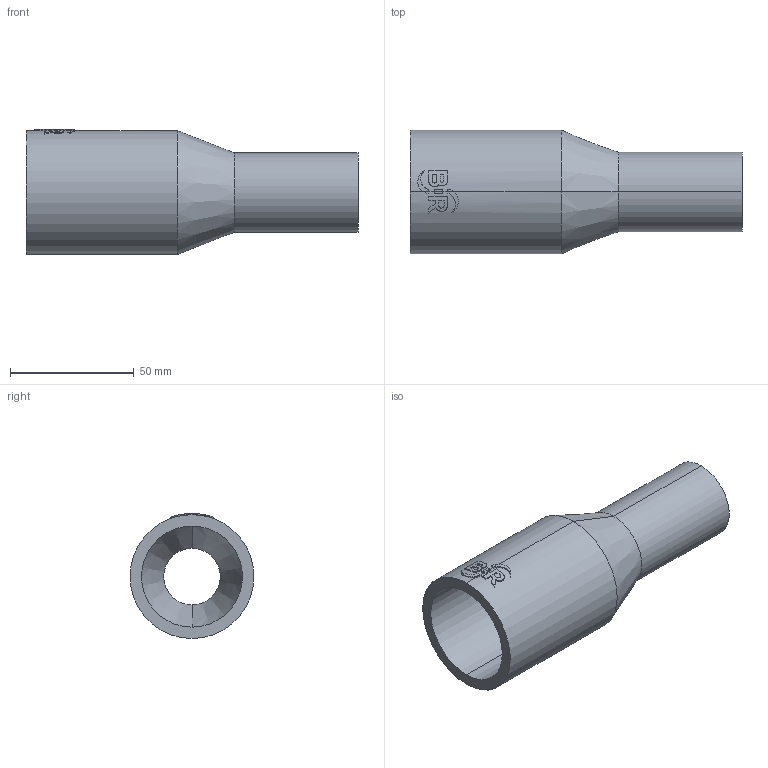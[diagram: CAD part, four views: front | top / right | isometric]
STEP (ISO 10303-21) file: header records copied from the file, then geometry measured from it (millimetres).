
FILE_DESCRIPTION (( 'STEP AP214' ), '1' );
FILE_NAME ('2323100815.STEP', '2018-07-20T09:54:39', ( '' ), ( '' ), 'SwSTEP 2.0', 'SolidWorks 2017', '' );
FILE_SCHEMA (( 'AUTOMOTIVE_DESIGN' ));
Length unit declared in the file: millimetre
Products named in the file (1): 2323100815
Bounding box: 134 x 50 x 50.46 mm (x, y, z)
Volume: 72744.8 mm3; surface area: 32728.3 mm2
Topology: 1 solids, 1 shells, 63 faces, 160 edges, 104 vertices
Faces by surface type: cylinder 31, plane 28, cone 4
Entity records: 3007 total; most frequent: CARTESIAN_POINT 798, ORIENTED_EDGE 320, DIRECTION 296, EDGE_CURVE 160, AXIS2_PLACEMENT_3D 112, VERTEX_POINT 104, VECTOR 72, LINE 72
